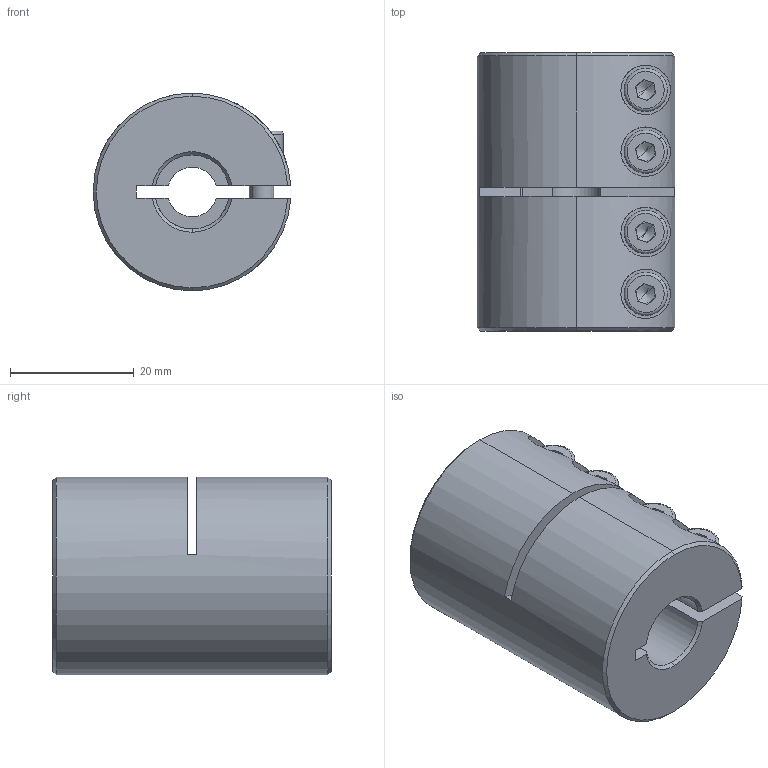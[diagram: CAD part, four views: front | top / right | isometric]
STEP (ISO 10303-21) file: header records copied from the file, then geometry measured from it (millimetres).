
FILE_DESCRIPTION (( 'STEP AP214' ), '1' );
FILE_NAME ('LL-B-D32L45-8-12½¨Ä£.STEP', '2022-07-21T07:01:42', ( '' ), ( '' ), 'SwSTEP 2.0', 'SolidWorks 2022', '' );
FILE_SCHEMA (( 'AUTOMOTIVE_DESIGN' ));
Length unit declared in the file: millimetre
Products named in the file (1): LL-B-D32L45-8-12膘耀
Bounding box: 31.97 x 45 x 32 mm (x, y, z)
Volume: 30044.5 mm3; surface area: 10812.6 mm2
Topology: 1 solids, 1 shells, 193 faces, 492 edges, 309 vertices
Faces by surface type: plane 88, cylinder 77, cone 20, torus 8
Entity records: 6357 total; most frequent: CARTESIAN_POINT 1583, DIRECTION 1037, ORIENTED_EDGE 968, EDGE_CURVE 484, AXIS2_PLACEMENT_3D 403, VERTEX_POINT 309, VECTOR 231, LINE 231
